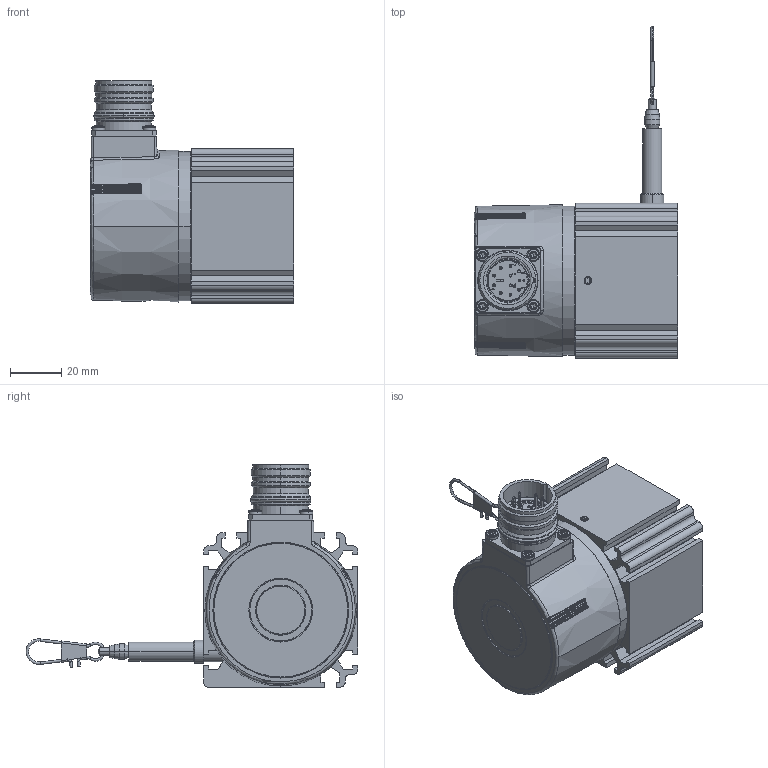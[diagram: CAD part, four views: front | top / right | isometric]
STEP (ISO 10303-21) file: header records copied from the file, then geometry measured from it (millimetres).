
FILE_DESCRIPTION((''),'2;1');
FILE_NAME('WDS-1000-P60-SR-SSI_02_ASM','2024-05-21T14:31:41',('15000597'),(''),'CREO PARAMETRIC BY PTC INC, 2022164','CREO PARAMETRIC BY PTC INC, 2022164','');
FILE_SCHEMA(('AUTOMOTIVE_DESIGN { 1 0 10303 214 1 1 1 1 }'));
Products named in the file (9): BAU_KLEMM_SSI_EN580EIML-SC10IG1; ADAPTER_36_AF1; TELESO_SENZORU_P60_100_AF2; VIKO_PR55_TL1MM; PRUCHODKA_LANKA_P60_AF2; SROUB_ISO4026_STAV_HEX_M3X3_AF2; SROUB_ISO4026_STAV_HEX_M3X3_AF3; KARABINKA25_AF1; WDS-1000-P60-SR-SSI_02_ASM
Assembly tree (8 placements, depth 2):
  WDS-1000-P60-SR-SSI_02_ASM
    BAU_KLEMM_SSI_EN580EIML-SC10IG1
    ADAPTER_36_AF1
    TELESO_SENZORU_P60_100_AF2
    VIKO_PR55_TL1MM
    PRUCHODKA_LANKA_P60_AF2
    SROUB_ISO4026_STAV_HEX_M3X3_AF2
    SROUB_ISO4026_STAV_HEX_M3X3_AF3
    KARABINKA25_AF1
Bounding box: 79.25 x 128.99 x 86.5 mm (x, y, z)
Volume: 33656.7 mm3; surface area: 65892.9 mm2
Topology: 6 solids, 13 shells, 1745 faces, 4596 edges, 2949 vertices
Faces by surface type: plane 610, cylinder 447, bspline 287, cone 188, torus 139, extrusion 50, sphere 24
Entity records: 95695 total; most frequent: CARTESIAN_POINT 40306, ORIENTED_EDGE 9054, DIRECTION 7635, PRESENTATION_STYLE_ASSIGNMENT 4561, STYLED_ITEM 4557, CURVE_STYLE 4544, EDGE_CURVE 4544, VERTEX_POINT 2949
